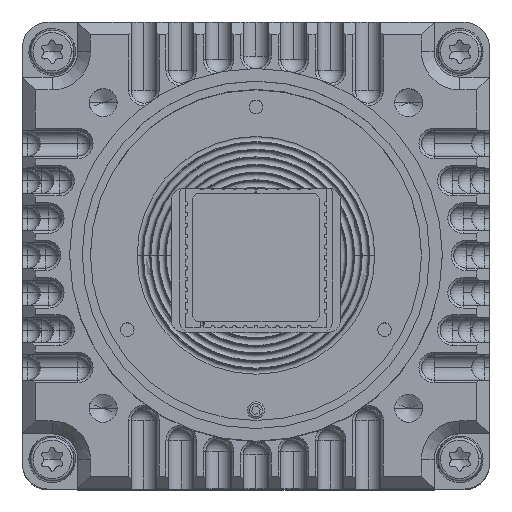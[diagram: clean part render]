
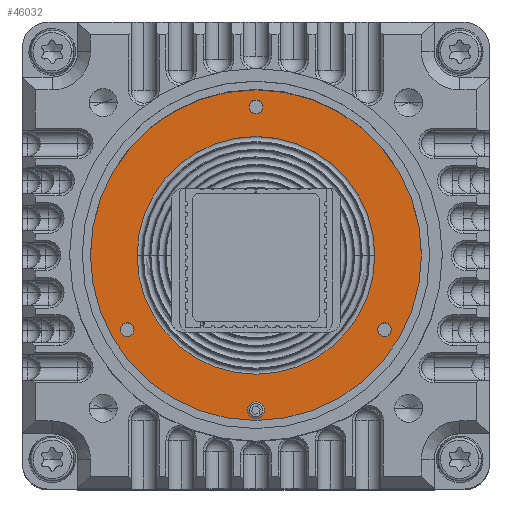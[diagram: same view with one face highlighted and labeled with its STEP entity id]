
A CAD part, top view. The second image highlights one B-rep face of the part: STEP entity #46032.
In plain terms, the highlighted planar face has unit normal (0, 0, 1).
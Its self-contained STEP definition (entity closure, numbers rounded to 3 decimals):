
#1940 = CIRCLE ( 'NONE', #141713, 0.8 ) ;
#3039 = DIRECTION ( 'NONE',  ( 0., 0., 1. ) ) ;
#3537 = EDGE_CURVE ( 'NONE', #158055, #145730, #15504, .T. ) ;
#4067 = EDGE_CURVE ( 'NONE', #53002, #184220, #18876, .T. ) ;
#6661 = VERTEX_POINT ( 'NONE', #52185 ) ;
#8922 = EDGE_CURVE ( 'NONE', #139509, #117075, #1940, .T. ) ;
#11582 = EDGE_LOOP ( 'NONE', ( #87877, #13902 ) ) ;
#11985 = FACE_BOUND ( 'NONE', #97783, .T. ) ;
#12366 = DIRECTION ( 'NONE',  ( 0., 0., 1. ) ) ;
#12662 = CIRCLE ( 'NONE', #56967, 0.8 ) ;
#12887 = CARTESIAN_POINT ( 'NONE',  ( -15.156, -7.39, 15.4 ) ) ;
#13902 = ORIENTED_EDGE ( 'NONE', *, *, #173277, .T. ) ;
#15504 = CIRCLE ( 'NONE', #152230, 0.8 ) ;
#18876 = CIRCLE ( 'NONE', #78299, 0.8 ) ;
#19557 = CARTESIAN_POINT ( 'NONE',  ( 15.155, -8.19, 15.4 ) ) ;
#20940 = DIRECTION ( 'NONE',  ( 0., 1., 0. ) ) ;
#21649 = PLANE ( 'NONE',  #132701 ) ;
#24750 = CIRCLE ( 'NONE', #60422, 19.5 ) ;
#25356 = EDGE_CURVE ( 'NONE', #45719, #28768, #12662, .T. ) ;
#26642 = CARTESIAN_POINT ( 'NONE',  ( 15.155, -7.39, 15.4 ) ) ;
#28231 = DIRECTION ( 'NONE',  ( 0., -1., 0. ) ) ;
#28768 = VERTEX_POINT ( 'NONE', #102484 ) ;
#30911 = EDGE_CURVE ( 'NONE', #175265, #173077, #60550, .T. ) ;
#31060 = AXIS2_PLACEMENT_3D ( 'NONE', #104460, #36242, #118340 ) ;
#31104 = EDGE_LOOP ( 'NONE', ( #78783, #103007 ) ) ;
#32889 = CARTESIAN_POINT ( 'NONE',  ( 0., 18.06, 15.4 ) ) ;
#36242 = DIRECTION ( 'NONE',  ( 0., 0., 1. ) ) ;
#38473 = AXIS2_PLACEMENT_3D ( 'NONE', #110072, #169366, #68916 ) ;
#38585 = CARTESIAN_POINT ( 'NONE',  ( 0., -18.49, 15.4 ) ) ;
#41178 = CARTESIAN_POINT ( 'NONE',  ( -15.156, -8.19, 15.4 ) ) ;
#42060 = ORIENTED_EDGE ( 'NONE', *, *, #147152, .T. ) ;
#45719 = VERTEX_POINT ( 'NONE', #26642 ) ;
#46032 = ADVANCED_FACE ( 'NONE', ( #112653, #82815, #98756, #11985, #92480, #149154 ), #21649, .T. ) ;
#47872 = EDGE_LOOP ( 'NONE', ( #148622, #176578 ) ) ;
#49954 = DIRECTION ( 'NONE',  ( 0., -1., 0. ) ) ;
#52185 = CARTESIAN_POINT ( 'NONE',  ( 0., 14.56, 15.4 ) ) ;
#53002 = VERTEX_POINT ( 'NONE', #156725 ) ;
#53236 = EDGE_CURVE ( 'NONE', #184220, #53002, #69539, .T. ) ;
#56967 = AXIS2_PLACEMENT_3D ( 'NONE', #177431, #150476, #49954 ) ;
#57185 = ORIENTED_EDGE ( 'NONE', *, *, #25356, .F. ) ;
#58110 = VERTEX_POINT ( 'NONE', #77413 ) ;
#60091 = EDGE_CURVE ( 'NONE', #173077, #175265, #24750, .T. ) ;
#60422 = AXIS2_PLACEMENT_3D ( 'NONE', #176296, #179965, #109439 ) ;
#60550 = CIRCLE ( 'NONE', #143687, 19.5 ) ;
#62548 = DIRECTION ( 'NONE',  ( 0., 0., -1. ) ) ;
#66028 = ORIENTED_EDGE ( 'NONE', *, *, #53236, .F. ) ;
#68916 = DIRECTION ( 'NONE',  ( 0., 1., 0. ) ) ;
#69539 = CIRCLE ( 'NONE', #31060, 0.8 ) ;
#71932 = CARTESIAN_POINT ( 'NONE',  ( 0., -18.94, 15.4 ) ) ;
#72489 = CARTESIAN_POINT ( 'NONE',  ( -15.156, -8.19, 15.4 ) ) ;
#72807 = EDGE_CURVE ( 'NONE', #117075, #139509, #139059, .T. ) ;
#77340 = EDGE_CURVE ( 'NONE', #28768, #45719, #170965, .T. ) ;
#77413 = CARTESIAN_POINT ( 'NONE',  ( 0., -13.44, 15.4 ) ) ;
#78031 = CARTESIAN_POINT ( 'NONE',  ( -15.156, -8.99, 15.4 ) ) ;
#78299 = AXIS2_PLACEMENT_3D ( 'NONE', #32889, #3039, #132507 ) ;
#78458 = AXIS2_PLACEMENT_3D ( 'NONE', #98020, #111940, #168518 ) ;
#78457 = CARTESIAN_POINT ( 'NONE',  ( 0., -16.89, 15.4 ) ) ;
#78783 = ORIENTED_EDGE ( 'NONE', *, *, #72807, .F. ) ;
#81431 = CIRCLE ( 'NONE', #170484, 14. ) ;
#82815 = FACE_BOUND ( 'NONE', #11582, .T. ) ;
#83732 = DIRECTION ( 'NONE',  ( 0., -1., 0. ) ) ;
#87877 = ORIENTED_EDGE ( 'NONE', *, *, #117897, .T. ) ;
#89432 = DIRECTION ( 'NONE',  ( 0., -1., 0. ) ) ;
#89794 = CARTESIAN_POINT ( 'NONE',  ( 0., 20.06, 15.4 ) ) ;
#89861 = CARTESIAN_POINT ( 'NONE',  ( 0., 17.26, 15.4 ) ) ;
#89901 = CARTESIAN_POINT ( 'NONE',  ( 0., 0.56, 15.4 ) ) ;
#92480 = FACE_BOUND ( 'NONE', #139627, .T. ) ;
#92917 = CARTESIAN_POINT ( 'NONE',  ( 0., -17.69, 15.4 ) ) ;
#93769 = AXIS2_PLACEMENT_3D ( 'NONE', #19557, #132193, #89432 ) ;
#97783 = EDGE_LOOP ( 'NONE', ( #57185, #180717 ) ) ;
#98020 = CARTESIAN_POINT ( 'NONE',  ( 0., -17.69, 15.4 ) ) ;
#98756 = FACE_BOUND ( 'NONE', #31104, .T. ) ;
#99656 = DIRECTION ( 'NONE',  ( 0., -1., 0. ) ) ;
#102484 = CARTESIAN_POINT ( 'NONE',  ( 15.155, -8.99, 15.4 ) ) ;
#103007 = ORIENTED_EDGE ( 'NONE', *, *, #8922, .F. ) ;
#104460 = CARTESIAN_POINT ( 'NONE',  ( 0., 18.06, 15.4 ) ) ;
#106186 = ORIENTED_EDGE ( 'NONE', *, *, #3537, .T. ) ;
#109439 = DIRECTION ( 'NONE',  ( 0., 1., 0. ) ) ;
#110072 = CARTESIAN_POINT ( 'NONE',  ( 0., 0.56, 15.4 ) ) ;
#111940 = DIRECTION ( 'NONE',  ( 0., 0., -1. ) ) ;
#112653 = FACE_OUTER_BOUND ( 'NONE', #47872, .T. ) ;
#113589 = CARTESIAN_POINT ( 'NONE',  ( 0., 20.06, 15.4 ) ) ;
#117075 = VERTEX_POINT ( 'NONE', #12887 ) ;
#117897 = EDGE_CURVE ( 'NONE', #6661, #58110, #81431, .T. ) ;
#118340 = DIRECTION ( 'NONE',  ( 0., -1., 0. ) ) ;
#121714 = DIRECTION ( 'NONE',  ( 0., -1., 0. ) ) ;
#124786 = CIRCLE ( 'NONE', #38473, 14. ) ;
#129301 = DIRECTION ( 'NONE',  ( 0., 0., 1. ) ) ;
#132193 = DIRECTION ( 'NONE',  ( 0., 0., 1. ) ) ;
#132507 = DIRECTION ( 'NONE',  ( 0., -1., 0. ) ) ;
#132701 = AXIS2_PLACEMENT_3D ( 'NONE', #113589, #143221, #99656 ) ;
#135992 = DIRECTION ( 'NONE',  ( 0., 1., 0. ) ) ;
#138940 = AXIS2_PLACEMENT_3D ( 'NONE', #72489, #129301, #83732 ) ;
#139059 = CIRCLE ( 'NONE', #138940, 0.8 ) ;
#139509 = VERTEX_POINT ( 'NONE', #78031 ) ;
#139627 = EDGE_LOOP ( 'NONE', ( #148507, #66028 ) ) ;
#141713 = AXIS2_PLACEMENT_3D ( 'NONE', #41178, #12366, #28231 ) ;
#143221 = DIRECTION ( 'NONE',  ( 0., 0., 1. ) ) ;
#143687 = AXIS2_PLACEMENT_3D ( 'NONE', #177816, #62548, #135992 ) ;
#145730 = VERTEX_POINT ( 'NONE', #38585 ) ;
#146620 = DIRECTION ( 'NONE',  ( 0., 0., -1. ) ) ;
#147152 = EDGE_CURVE ( 'NONE', #145730, #158055, #158647, .T. ) ;
#148507 = ORIENTED_EDGE ( 'NONE', *, *, #4067, .F. ) ;
#148622 = ORIENTED_EDGE ( 'NONE', *, *, #30911, .F. ) ;
#149154 = FACE_BOUND ( 'NONE', #179229, .T. ) ;
#149589 = DIRECTION ( 'NONE',  ( 0., 0., -1. ) ) ;
#150476 = DIRECTION ( 'NONE',  ( 0., 0., 1. ) ) ;
#152230 = AXIS2_PLACEMENT_3D ( 'NONE', #92917, #149589, #121714 ) ;
#156725 = CARTESIAN_POINT ( 'NONE',  ( 0., 18.86, 15.4 ) ) ;
#158055 = VERTEX_POINT ( 'NONE', #78457 ) ;
#158647 = CIRCLE ( 'NONE', #78458, 0.8 ) ;
#168518 = DIRECTION ( 'NONE',  ( 0., -1., 0. ) ) ;
#169366 = DIRECTION ( 'NONE',  ( 0., 0., -1. ) ) ;
#170484 = AXIS2_PLACEMENT_3D ( 'NONE', #89901, #146620, #20940 ) ;
#170965 = CIRCLE ( 'NONE', #93769, 0.8 ) ;
#173077 = VERTEX_POINT ( 'NONE', #71932 ) ;
#173277 = EDGE_CURVE ( 'NONE', #58110, #6661, #124786, .T. ) ;
#175265 = VERTEX_POINT ( 'NONE', #89794 ) ;
#176296 = CARTESIAN_POINT ( 'NONE',  ( 0., 0.56, 15.4 ) ) ;
#176578 = ORIENTED_EDGE ( 'NONE', *, *, #60091, .F. ) ;
#177431 = CARTESIAN_POINT ( 'NONE',  ( 15.155, -8.19, 15.4 ) ) ;
#177816 = CARTESIAN_POINT ( 'NONE',  ( 0., 0.56, 15.4 ) ) ;
#179229 = EDGE_LOOP ( 'NONE', ( #106186, #42060 ) ) ;
#179965 = DIRECTION ( 'NONE',  ( 0., 0., -1. ) ) ;
#180717 = ORIENTED_EDGE ( 'NONE', *, *, #77340, .F. ) ;
#184220 = VERTEX_POINT ( 'NONE', #89861 ) ;
